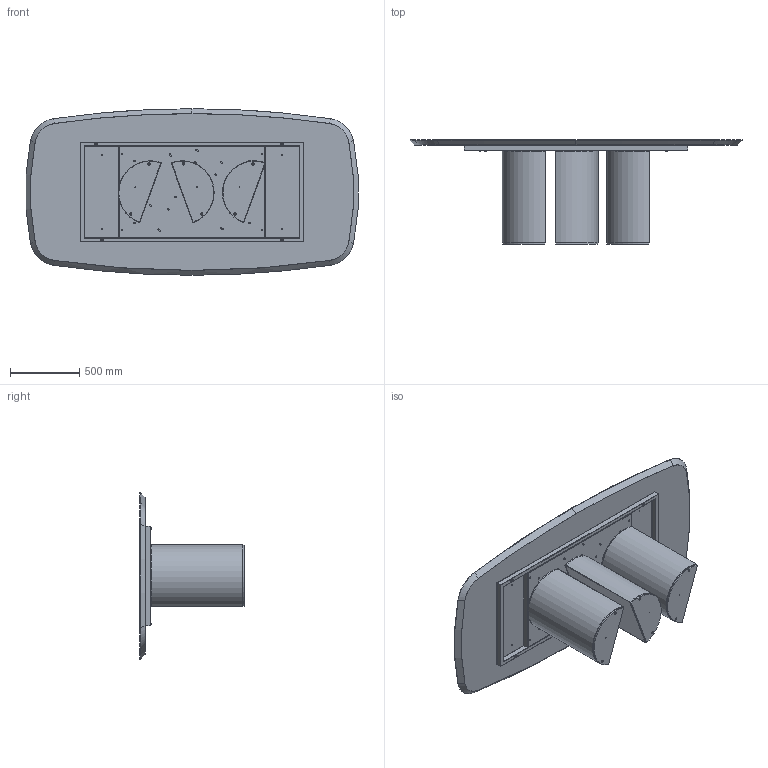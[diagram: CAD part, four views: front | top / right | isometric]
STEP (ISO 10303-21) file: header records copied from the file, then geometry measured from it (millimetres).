
FILE_DESCRIPTION (( 'STEP AP203' ), '1' );
FILE_NAME ('PL43W.STEP', '2024-08-07T13:55:57', ( '' ), ( '' ), 'SwSTEP 2.0', 'SolidWorks 2022', '' );
FILE_SCHEMA (( 'CONFIG_CONTROL_DESIGN' ));
Length unit declared in the file: millimetre
Products named in the file (14): COLLO TELAIO UNIVERSALE TTAV0601 CON FERRAMENTA_FERRAMENTA MTG TOP LEGNO-MARMO-KING; M8xXXmm_M8x20mm; Assieme Basamento PLAI_Basamento per tavoli; PL43W; M8xXXmm_hex_M8X20mm; W4XCMXX-00-Piani Sagomati legno_2400 x 1200; TTAV0601-00-TELAIO X TAVOLI PLAI ONDA NOA 240cm_TTAV06; M8xXXmm_M8x55mm; rondella M8_8X24; TTAV0601_01-00-STRUTTURA X TAVOLI PLAI ONDA NOA 240; PLA000000ZOC-01-PLAI ZOCCOLO DELLA BASE; TTAV0601_02-00-VASSOIO TAVOLI PLAI ONDA NOA 240; M8xXXmm_hex_M8X60mm; PLA000000BAS-00-PLAI BASE GREZZA
Assembly tree (32 placements, depth 4):
  PL43W
    COLLO TELAIO UNIVERSALE TTAV0601 CON FERRAMENTA_FERRAMENTA MTG TOP LEGNO-MARMO-KING
      TTAV0601-00-TELAIO X TAVOLI PLAI ONDA NOA 240cm_TTAV06
        TTAV0601_02-00-VASSOIO TAVOLI PLAI ONDA NOA 240
        TTAV0601_01-00-STRUTTURA X TAVOLI PLAI ONDA NOA 240
      rondella M8_8X24  x4
      M8xXXmm_M8x55mm  x4
    Assieme Basamento PLAI_Basamento per tavoli  x3
      PLA000000BAS-00-PLAI BASE GREZZA
      PLA000000ZOC-01-PLAI ZOCCOLO DELLA BASE
      M8xXXmm_hex_M8X60mm
      M8xXXmm_hex_M8X20mm
    rondella M8_8X24  x6
    M8xXXmm_M8x20mm  x6
    W4XCMXX-00-Piani Sagomati legno_2400 x 1200
Bounding box: 2391.9 x 752 x 1200 mm (x, y, z)
Volume: 109708974.2 mm3; surface area: 14070823.3 mm2
Topology: 44 solids, 44 shells, 1311 faces, 2968 edges, 1708 vertices
Faces by surface type: plane 507, cylinder 372, cone 283, torus 141, sphere 8
Entity records: 21442 total; most frequent: DIRECTION 3600, CARTESIAN_POINT 3383, ORIENTED_EDGE 3140, EDGE_CURVE 1570, AXIS2_PLACEMENT_3D 1361, VERTEX_POINT 940, VECTOR 878, LINE 878
